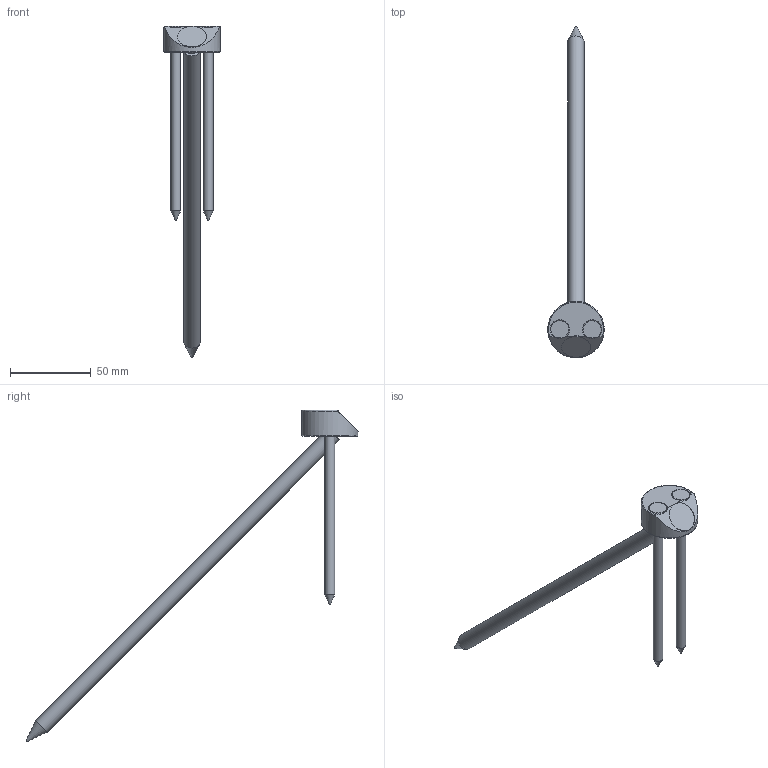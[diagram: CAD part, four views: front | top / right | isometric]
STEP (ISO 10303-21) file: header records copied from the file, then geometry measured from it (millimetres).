
FILE_DESCRIPTION(/* description */ ('Unknown'),/* implementation_level */ '2;1');
FILE_NAME(/* name */ 'T-Joint_D35_W45_SK-10x280_2xSK-6x120',/* time_stamp */ '2020-07-13T10:17:19+02:00',/* author */ ('Unknown'),/* organization */ ('Unknown'),/* preprocessor_version */ 'ST-DEVELOPER v16.7',/* originating_system */ 'DEX',/* authorisation */ $);
FILE_SCHEMA (('AUTOMOTIVE_DESIGN {1 0 10303 214 3 1 1}'));
Length unit declared in the file: millimetre
Products named in the file (4): T-Joint_D35_W45_SK-10x280_2xSK-6x120; T-Joint_D35_W45; SK Schraube 6x120_ohne_Gewinde; SK Schraube 10x280_ohne_Gewinde_22042020
Assembly tree (4 placements, depth 2):
  T-Joint_D35_W45_SK-10x280_2xSK-6x120
    T-Joint_D35_W45
    SK Schraube 6x120_ohne_Gewinde  x2
    SK Schraube 10x280_ohne_Gewinde_22042020
Bounding box: 34.78 x 204.98 x 204.7 mm (x, y, z)
Volume: 38936.8 mm3; surface area: 17809.6 mm2
Topology: 4 solids, 4 shells, 35 faces, 73 edges, 45 vertices
Faces by surface type: cylinder 12, plane 11, cone 9, torus 3
Full cylindrical faces by diameter (mm): 6 x2, 6.2 x2, 6.3 x1, 10 x2, 11 x2, 12.5 x1, 18 x1, 34.8 x1
Entity records: 771 total; most frequent: DIRECTION 130, CARTESIAN_POINT 126, ORIENTED_EDGE 76, AXIS2_PLACEMENT_3D 63, EDGE_LOOP 53, FACE_BOUND 53, EDGE_CURVE 38, VERTEX_POINT 33
